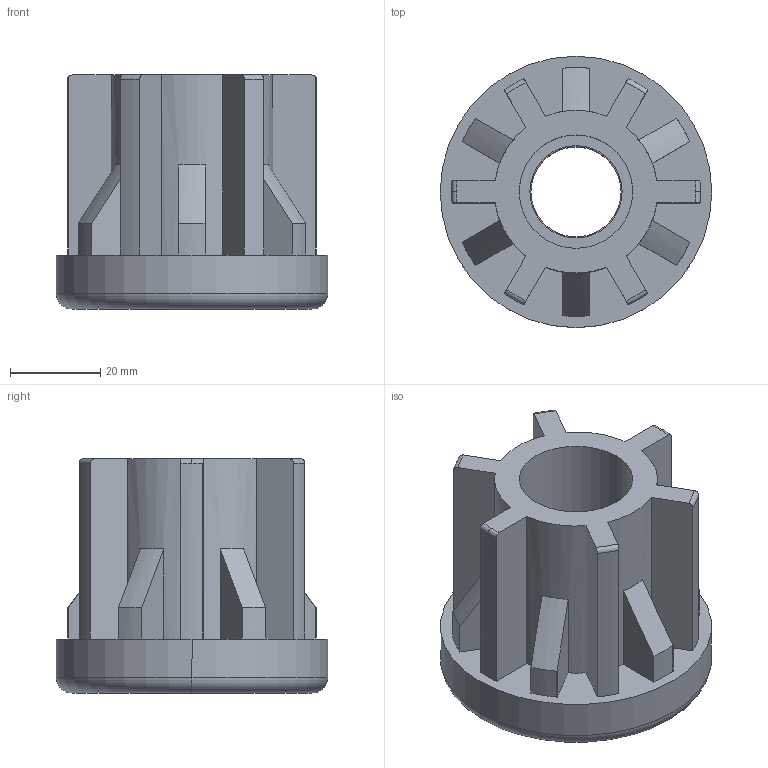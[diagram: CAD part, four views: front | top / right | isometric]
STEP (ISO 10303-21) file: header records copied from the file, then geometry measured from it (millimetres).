
FILE_DESCRIPTION (( 'STEP AP214' ), '1' );
FILE_NAME ('42006460420.STEP', '2020-02-25T17:37:05', ( '' ), ( '' ), 'SwSTEP 2.0', 'SolidWorks 2018', '' );
FILE_SCHEMA (( 'AUTOMOTIVE_DESIGN' ));
Length unit declared in the file: millimetre
Products named in the file (4): corpo tappo M20_60_57.stp; BC_M20.stp; 42006460420; 42006460420.stp
Assembly tree (3 placements, depth 3):
  42006460420
    42006460420.stp
      corpo tappo M20_60_57.stp
      BC_M20.stp
Bounding box: 60.3 x 60.3 x 52 mm (x, y, z)
Volume: 70382.3 mm3; surface area: 24427.1 mm2
Topology: 2 solids, 2 shells, 108 faces, 282 edges, 182 vertices
Faces by surface type: cylinder 46, plane 32, torus 16, cone 8, bspline 6
Entity records: 4350 total; most frequent: CARTESIAN_POINT 1545, DIRECTION 578, ORIENTED_EDGE 564, EDGE_CURVE 282, AXIS2_PLACEMENT_3D 229, VERTEX_POINT 182, LINE 120, VECTOR 120
